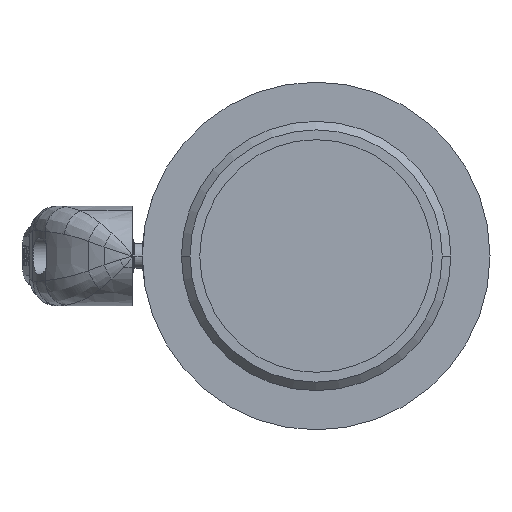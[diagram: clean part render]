
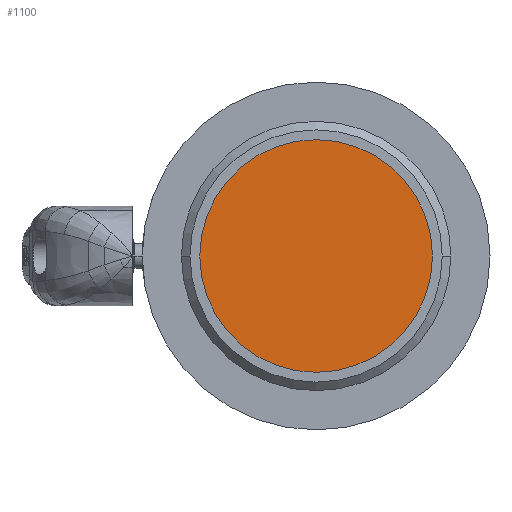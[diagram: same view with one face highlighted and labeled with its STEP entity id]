
A CAD part, left-side view. The second image highlights one B-rep face of the part: STEP entity #1100.
In plain terms, the highlighted planar face has unit normal (-1, 0, 0) as drawn and (1, 0, 0) by its records, which use the part's own axes.
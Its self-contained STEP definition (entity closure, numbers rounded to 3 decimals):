
#460=CARTESIAN_POINT('',(-217.595,37.875,-47.5));
#470=VERTEX_POINT('',#460);
#520=CARTESIAN_POINT('',(-217.595,37.875,
0.));
#530=DIRECTION('',(1.,0.,0.));
#540=DIRECTION('',(0.,0.,-1.));
#550=AXIS2_PLACEMENT_3D('',#520,#530,#540);
#560=CIRCLE('',#550,47.5);
#570=CARTESIAN_POINT('',(-217.595,37.875,47.5));
#580=VERTEX_POINT('',#570);
#590=EDGE_CURVE('',#470,#580,#560,.T.);
#1000=CARTESIAN_POINT('',(-217.595,37.875,
0.));
#1010=DIRECTION('',(1.,-0.,0.));
#1020=DIRECTION('',(0.,0.,-1.));
#1030=AXIS2_PLACEMENT_3D('',#1000,#1010,#1020);
#1040=PLANE('',#1030);
#1050=EDGE_CURVE('',#580,#470,#560,.T.);
#1060=ORIENTED_EDGE('',*,*,#1050,.T.);
#1070=ORIENTED_EDGE('',*,*,#590,.T.);
#1080=EDGE_LOOP('',(#1070,#1060));
#1090=FACE_OUTER_BOUND('',#1080,.T.);
#1100=ADVANCED_FACE('',(#1090),#1040,.T.);
